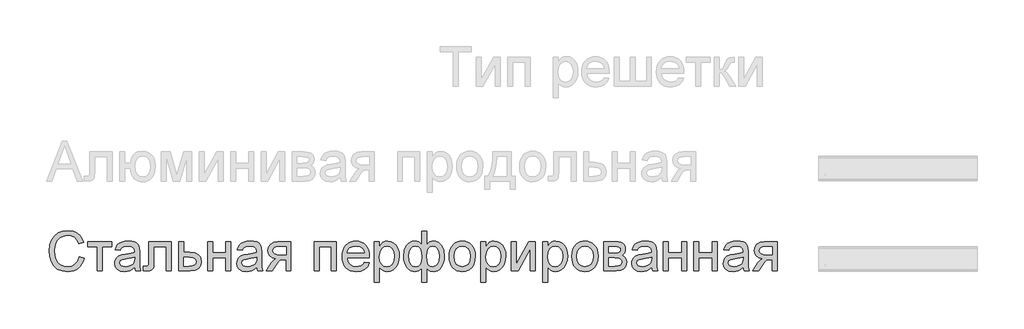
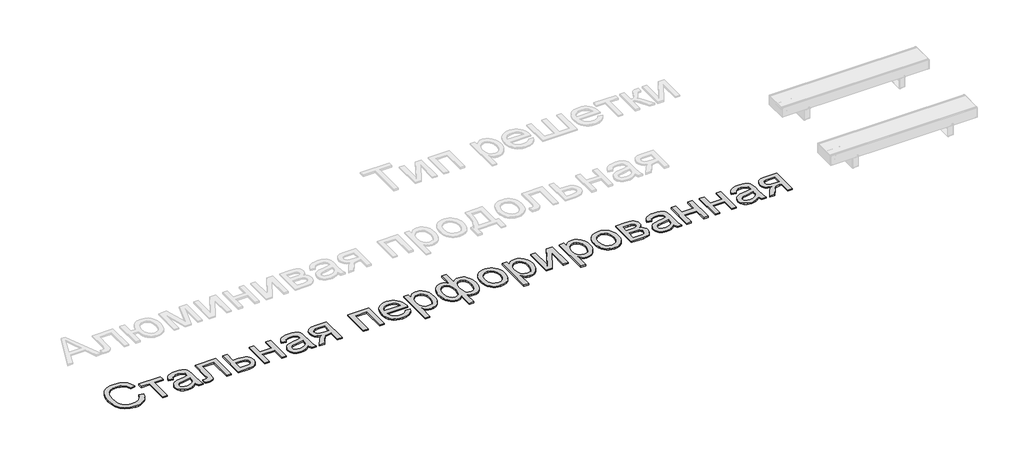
# One storey, part 2 of 7: 1 proxy.
"""IFC4 building model written with IfcOpenShell, lengths in millimetres."""

from ifc_helpers import new_model, si_unit, origin, origin_with_axes, place, context, project, spatial, polyline, outline, extrude, element, save

model = new_model("IFC4")

# Units and contexts
model_context = context("Model", 3, world=origin())
ifc_project = project(units=[si_unit("LENGTHUNIT", "METRE", prefix="MILLI")], contexts=[model_context])

# Site, building, storey
site = spatial("IfcSite", under=ifc_project)
building = spatial("IfcBuilding", under=site)
storey = spatial("IfcBuildingStorey", under=building, Name="Уровень 1", Elevation=0.0)

# Proxy
placement = place(None, origin())
element("IfcBuildingElementProxy", 1, Name="Текст модели 1", ObjectType="Текст модели 1", at=placement, inside=storey, context=model_context, shape_type="SweptSolid", body=[
    extrude(outline(polyline([(-1667.7169972, -7441.1418885), (-1630.0458809, -7450.8539731), (-1637.5000899, -7474.2811585), (-1647.4283052, -7494.7514922), (-1659.830527, -7512.2649745), (-1674.7067551, -7526.8216052), (-1691.7212974, -7538.2650345), (-1710.5384615, -7546.4389125), (-1731.1582473, -7551.3432394), (-1753.5806549, -7552.978015), (-1797.2758389, -7548.0300022), (-1831.9763081, -7533.1859637), (-1858.5741763, -7508.9609343), (-1877.9615575, -7475.8699488), (-1889.7981607, -7436.9664278), (-1893.7436951, -7395.3037919), (-1889.2831259, -7351.3602876), (-1875.9014183, -7313.4132598), (-1854.2975481, -7282.667522), (-1825.1704912, -7260.3278878), (-1790.6263718, -7246.7254511), (-1752.7713145, -7242.1913055), (-1711.4673635, -7248.0590233), (-1693.4986273, -7255.3936706), (-1677.3187173, -7265.6621768), (-1663.194348, -7278.5932289), (-1651.3922337, -7293.915514), (-1634.7547705, -7331.7337831), (-1672.4258868, -7340.7101038), (-1685.4856976, -7313.2385158), (-1703.3279744, -7294.3937606), (-1726.1734463, -7283.4952565), (-1754.2428425, -7279.8624218), (-1786.598064, -7283.8907296), (-1813.1775381, -7295.9756532), (-1833.3466685, -7314.8479995), (-1846.4708587, -7339.2385758), (-1853.6721487, -7366.8113314), (-1856.0725788, -7395.2302155), (-1853.2306903, -7430.0318522), (-1844.7050251, -7460.1245994), (-1830.1736863, -7484.3588259), (-1809.3147772, -7501.5849003), (-1784.3079986, -7511.8763991), (-1757.3330513, -7515.3068987), (-1725.8883377, -7510.6347974), (-1699.6859426, -7496.6184933), (-1679.9030883, -7473.4051395), (-1667.7169972, -7441.1418885)])), origin_with_axes(), (0.0, 0.0, 1.0), 10.0),
    extrude(outline(polyline([(-1601.7925437, -7326.9513172), (-1422.8547412, -7326.9513172), (-1422.8547412, -7364.6224335), (-1493.4880843, -7364.6224335), (-1493.4880843, -7548.2691255), (-1531.1592006, -7548.2691255), (-1531.1592006, -7364.6224335), (-1601.7925437, -7364.6224335), (-1601.7925437, -7326.9513172)])), origin_with_axes(), (0.0, 0.0, 1.0), 10.0),
    extrude(outline(polyline([(-1248.6258283, -7520.0157882), (-1266.6244549, -7535.4484379), (-1285.1565104, -7545.5467987), (-1304.6450591, -7551.1202109), (-1325.5131653, -7552.978015), (-1356.9946671, -7548.5082488), (-1380.217218, -7535.09895), (-1394.5370247, -7514.7366816), (-1399.3102936, -7489.4080062), (-1397.5076718, -7473.7914155), (-1392.0998064, -7459.6095646), (-1383.7580822, -7447.4694588), (-1373.1538837, -7437.9781033), (-1346.7767446, -7425.6172683), (-1314.1823999, -7419.9518856), (-1275.665155, -7413.9921972), (-1248.8465575, -7407.0024393), (-1248.6258283, -7398.6147298), (-1251.2193964, -7381.8025227), (-1259.0001006, -7370.802851), (-1276.400919, -7362.6358707), (-1300.6443424, -7359.9135439), (-1323.0851442, -7361.7253628), (-1338.7569171, -7367.1608192), (-1349.4438891, -7377.2131948), (-1356.9302877, -7392.8757707), (-1394.601404, -7388.1668812), (-1388.0623015, -7367.5654894), (-1378.3042316, -7351.3786817), (-1364.4166863, -7338.9994525), (-1345.4891577, -7329.8207967), (-1322.3401831, -7324.1370199), (-1295.7883001, -7322.2424276), (-1270.321669, -7323.9162907), (-1250.1341445, -7328.9378799), (-1234.913027, -7336.4886579), (-1224.3456166, -7345.7500871), (-1217.3374646, -7357.2004142), (-1212.794122, -7371.3178858), (-1210.954712, -7404.2801126), (-1210.954712, -7451.1482787), (-1209.0417256, -7516.5944857), (-1201.5369329, -7548.2691255), (-1239.2080492, -7548.2691255), (-1248.6258283, -7520.0157882)]), holes=[polyline([(-1248.6258283, -7444.6735556), (-1309.3999339, -7456.2250503), (-1341.8103377, -7462.3318914), (-1356.4888293, -7472.2647053), (-1361.6391772, -7486.7592559), (-1358.834077, -7497.9612626), (-1350.4187764, -7507.1399184), (-1336.5772163, -7513.2651536), (-1317.4933378, -7515.3068987), (-1297.2598281, -7513.0536215), (-1279.3807631, -7506.2937898), (-1264.8862125, -7496.3333848), (-1254.8062458, -7484.4783875), (-1250.3364796, -7472.2647053), (-1248.8465575, -7455.3421335), (-1248.6258283, -7444.6735556)])]), origin_with_axes(), (0.0, 0.0, 1.0), 10.0),
    extrude(outline(polyline([(-1140.3213689, -7326.9513172), (-970.8013456, -7326.9513172), (-970.8013456, -7548.0483963), (-1008.4724619, -7548.0483963), (-1008.4724619, -7364.6224335), (-1102.6502526, -7364.6224335), (-1102.6502526, -7470.2045661), (-1105.1886384, -7518.9121423), (-1109.9435132, -7529.9394051), (-1119.131366, -7539.4767458), (-1133.0740936, -7546.0710306), (-1152.0935928, -7548.2691255), (-1182.7013748, -7546.3561391), (-1182.7013748, -7510.5980092), (-1165.8523794, -7510.5980092), (-1148.819443, -7508.2803526), (-1142.0136261, -7500.9227127), (-1140.3213689, -7468.0708505), (-1140.3213689, -7326.9513172)])), origin_with_axes(), (0.0, 0.0, 1.0), 10.0),
    extrude(outline(polyline([(-914.2946711, -7326.9513172), (-876.6235548, -7326.9513172), (-876.6235548, -7407.0024393), (-833.2134794, -7407.0024393), (-795.5791513, -7411.7205259), (-780.4316101, -7417.6181341), (-767.7304842, -7425.8747857), (-757.6873058, -7436.205372), (-750.5136069, -7448.3247844), (-744.7746477, -7477.930088), (-749.6582812, -7504.8866412), (-764.3091817, -7527.6309455), (-775.5410788, -7536.6601493), (-789.7022364, -7543.1095805), (-826.8123327, -7548.2691255), (-914.2946711, -7548.2691255), (-914.2946711, -7326.9513172)]), holes=[polyline([(-876.6235548, -7510.5980092), (-841.4540361, -7510.5980092), (-814.1663891, -7508.6206434), (-796.0206097, -7502.6885463), (-785.8394754, -7492.5625944), (-782.445764, -7478.0036644), (-784.9565587, -7465.6980117), (-792.4889425, -7454.8270987), (-808.629765, -7447.2119414), (-836.9658757, -7444.6735556), (-876.6235548, -7444.6735556), (-876.6235548, -7510.5980092)])]), origin_with_axes(), (0.0, 0.0, 1.0), 10.0),
    extrude(outline(polyline([(-697.6857523, -7326.9513172), (-660.014636, -7326.9513172), (-660.014636, -7411.7113289), (-561.1279557, -7411.7113289), (-561.1279557, -7326.9513172), (-523.4568394, -7326.9513172), (-523.4568394, -7548.2691255), (-561.1279557, -7548.2691255), (-561.1279557, -7449.3824452), (-660.014636, -7449.3824452), (-660.014636, -7548.2691255), (-697.6857523, -7548.2691255), (-697.6857523, -7326.9513172)])), origin_with_axes(), (0.0, 0.0, 1.0), 10.0),
    extrude(outline(polyline([(-325.6834788, -7520.0157882), (-343.6821054, -7535.4484379), (-362.2141609, -7545.5467987), (-381.7027096, -7551.1202109), (-402.5708158, -7552.978015), (-434.0523176, -7548.5082488), (-457.2748685, -7535.09895), (-471.5946752, -7514.7366816), (-476.3679441, -7489.4080062), (-474.5653223, -7473.7914155), (-469.1574569, -7459.6095646), (-460.8157327, -7447.4694588), (-450.2115342, -7437.9781033), (-423.8343951, -7425.6172683), (-391.2400504, -7419.9518856), (-352.7228055, -7413.9921972), (-325.904208, -7407.0024393), (-325.6834788, -7398.6147298), (-328.2770469, -7381.8025227), (-336.0577511, -7370.802851), (-353.4585695, -7362.6358707), (-377.7019929, -7359.9135439), (-400.1427947, -7361.7253628), (-415.8145676, -7367.1608192), (-426.5015396, -7377.2131948), (-433.9879382, -7392.8757707), (-471.6590545, -7388.1668812), (-465.119952, -7367.5654894), (-455.3618821, -7351.3786817), (-441.4743368, -7338.9994525), (-422.5468082, -7329.8207967), (-399.3978336, -7324.1370199), (-372.8459506, -7322.2424276), (-347.3793195, -7323.9162907), (-327.191795, -7328.9378799), (-311.9706775, -7336.4886579), (-301.4032671, -7345.7500871), (-294.3951151, -7357.2004142), (-289.8517725, -7371.3178858), (-288.0123625, -7404.2801126), (-288.0123625, -7451.1482787), (-286.0993761, -7516.5944857), (-278.5945834, -7548.2691255), (-316.2656998, -7548.2691255), (-325.6834788, -7520.0157882)]), holes=[polyline([(-325.6834788, -7444.6735556), (-386.4575844, -7456.2250503), (-418.8679882, -7462.3318914), (-433.5464798, -7472.2647053), (-438.6968277, -7486.7592559), (-435.8917275, -7497.9612626), (-427.4764269, -7507.1399184), (-413.6348668, -7513.2651536), (-394.5509883, -7515.3068987), (-374.3174786, -7513.0536215), (-356.4384136, -7506.2937898), (-341.943863, -7496.3333848), (-331.8638963, -7484.4783875), (-327.3941301, -7472.2647053), (-325.904208, -7455.3421335), (-325.6834788, -7444.6735556)])]), origin_with_axes(), (0.0, 0.0, 1.0), 10.0),
    extrude(outline(polyline([(-66.6945542, -7326.9513172), (-66.6945542, -7548.2691255), (-104.3656705, -7548.2691255), (-104.3656705, -7463.5091138), (-124.8934859, -7463.5091138), (-152.8525175, -7468.2915797), (-164.017736, -7478.7210343), (-179.1192919, -7500.4444661), (-209.1384628, -7548.2691255), (-252.695691, -7548.2691255), (-214.8774219, -7487.7893255), (-198.1755793, -7466.0842878), (-182.7981119, -7456.4457795), (-208.5498516, -7448.5547107), (-226.6496457, -7433.5635194), (-237.3550118, -7413.6243152), (-240.9234671, -7390.8892079), (-236.0490307, -7365.1006801), (-221.4257214, -7344.6832293), (-197.568574, -7331.3842952), (-164.9926233, -7326.9513172), (-66.6945542, -7326.9513172)]), holes=[polyline([(-104.3656705, -7364.6224335), (-154.0297399, -7364.6224335), (-179.680312, -7366.8021343), (-194.239242, -7373.3412368), (-200.9990736, -7382.8050011), (-203.2523508, -7393.7586875), (-199.9322158, -7408.1152824), (-189.9718108, -7418.0756874), (-171.568514, -7423.89742), (-142.9197036, -7425.8379975), (-104.3656705, -7425.8379975), (-104.3656705, -7364.6224335)])]), origin_with_axes(), (0.0, 0.0, 1.0), 10.0),
    extrude(outline(polyline([(107.5343587, -7326.9513172), (277.0543821, -7326.9513172), (277.0543821, -7548.2691255), (239.3832658, -7548.2691255), (239.3832658, -7364.6224335), (145.205475, -7364.6224335), (145.205475, -7548.2691255), (107.5343587, -7548.2691255), (107.5343587, -7326.9513172)])), origin_with_axes(), (0.0, 0.0, 1.0), 10.0),
    extrude(outline(polyline([(488.5129529, -7482.3446719), (525.4483052, -7487.0535615), (512.140174, -7514.8838344), (490.9041859, -7535.6875612), (462.2185873, -7548.6554016), (426.5616249, -7552.978015), (403.1873226, -7551.1133131), (382.3606032, -7545.5192076), (364.0814666, -7536.1956982), (348.3499127, -7523.1427852), (335.6993706, -7506.7237519), (326.6632691, -7487.3018818), (321.2416082, -7464.877175), (319.4343879, -7439.4496313), (321.2600023, -7413.1598642), (326.7368455, -7389.987897), (335.8649175, -7369.9337298), (348.6442183, -7352.9973624), (364.3343854, -7339.5420785), (382.1950563, -7329.9311613), (402.2262309, -7324.1646111), (424.4279093, -7322.2424276), (445.9145171, -7324.1600125), (465.3455843, -7329.9127672), (482.7211107, -7339.5006917), (498.0410966, -7352.923786), (510.5467851, -7369.8233652), (519.4794198, -7389.8407442), (524.8390007, -7412.9759232), (526.6255276, -7439.2289021), (526.4047984, -7449.3824452), (357.1055042, -7449.3824452), (363.6262126, -7477.5806001), (378.7737537, -7498.3107505), (400.6351413, -7511.0578617), (427.2973889, -7515.3068987), (447.3469576, -7513.33873), (464.2327412, -7507.434224), (477.9547396, -7497.2254986), (488.5129529, -7482.3446719)]), holes=[polyline([(357.1055042, -7411.7113289), (488.9544113, -7411.7113289), (483.8592457, -7391.8089129), (473.8712495, -7377.5718797), (451.9086944, -7364.3281279), (424.2807565, -7359.9135439), (398.8877018, -7363.436014), (377.8908369, -7374.0034244), (363.2951188, -7390.4753407), (357.1055042, -7411.7113289)])]), origin_with_axes(), (0.0, 0.0, 1.0), 10.0),
    extrude(outline(polyline([(564.2966439, -7633.0291372), (564.2966439, -7326.9513172), (601.9677602, -7326.9513172), (601.9677602, -7363.8866695), (614.2550188, -7345.6673137), (628.0138055, -7332.6534881), (644.0534605, -7324.8451928), (663.1833242, -7322.2424276), (688.6591524, -7325.8844594), (710.9344072, -7336.8105546), (729.0709895, -7354.3585258), (742.1308004, -7377.8661853), (750.0218692, -7405.6228818), (752.6522254, -7435.9179641), (749.6815783, -7468.1352299), (740.769637, -7496.9495871), (726.20151, -7520.898705), (706.2623058, -7538.5202526), (683.0397549, -7549.3635744), (658.6215875, -7552.978015), (641.3035425, -7550.5591909), (625.8433017, -7543.3027185), (612.6087469, -7532.3490321), (601.9677602, -7518.8385659), (601.9677602, -7633.0291372), (564.2966439, -7633.0291372)]), holes=[polyline([(601.9677602, -7439.3760549), (606.0420533, -7473.1476221), (618.2649326, -7496.7656461), (636.3003474, -7510.6715856), (657.8122471, -7515.3068987), (679.6736346, -7510.5060387), (698.1689019, -7496.1034586), (710.7780573, -7471.6209118), (714.9811091, -7436.5801517), (710.8792249, -7402.9925256), (698.5735721, -7379.0434077), (680.5657485, -7364.6960099), (659.3573515, -7359.9135439), (638.066181, -7364.9995125), (619.3685786, -7380.2574183), (606.3179648, -7405.2090146), (601.9677602, -7439.3760549)])]), origin_with_axes(), (0.0, 0.0, 1.0), 10.0),
    extrude(outline(polyline([(922.1722488, -7246.900195), (959.8433651, -7246.900195), (959.8433651, -7348.2148965), (971.2752981, -7336.7829635), (983.792483, -7328.6803626), (997.3397375, -7323.8519114), (1011.8618792, -7322.2424276), (1029.3017851, -7324.2887712), (1044.8333031, -7330.427802), (1058.4564332, -7340.65952), (1070.1711755, -7354.9839252), (1079.5866553, -7372.4123347), (1086.311998, -7391.9560657), (1091.6922722, -7437.3894921), (1090.2437368, -7462.0444836), (1085.8981308, -7484.2116731), (1078.655454, -7503.8910605), (1068.5157065, -7521.082646), (1056.2238493, -7535.03687), (1042.5248435, -7545.0041728), (1027.4186891, -7550.9845544), (1010.905386, -7552.978015), (987.8759732, -7549.2991951), (975.0184974, -7542.4381958), (959.8433651, -7529.2128381), (959.8433651, -7633.0291372), (922.1722488, -7633.0291372), (922.1722488, -7529.2128381), (898.1127663, -7547.0183267), (869.6386999, -7552.978015), (853.3231334, -7551.0742257), (838.0744247, -7545.3628577), (823.8925738, -7535.8439111), (810.7775807, -7522.5173858), (799.768712, -7505.6453978), (791.9052343, -7485.490063), (787.1871477, -7462.0513814), (785.6144522, -7435.329353), (791.3074261, -7391.1651194), (798.4236434, -7371.993869), (808.3863477, -7354.763196), (820.7540805, -7340.5353598), (835.0853835, -7330.3726197), (851.3802566, -7324.2749757), (869.6386999, -7322.2424276), (884.9885762, -7323.8519114), (898.8117421, -7328.6803626), (911.1817742, -7336.7829635), (922.1722488, -7348.2148965), (922.1722488, -7246.900195)]), holes=[polyline([(959.6226359, -7438.2724089), (962.7588299, -7476.4125748), (972.167412, -7499.5983375), (986.3032776, -7511.3797584), (1003.6213225, -7515.3068987), (1022.9811125, -7510.4784475), (1039.2690879, -7495.993094), (1050.3331389, -7471.3358032), (1054.0211559, -7435.9915405), (1050.6182474, -7402.4774908), (1040.4095221, -7378.7491021), (1024.8665078, -7364.6224335), (1005.4607325, -7359.9135439), (985.4755431, -7364.8155715), (971.1373424, -7379.5216543), (962.5013125, -7404.0133981), (959.6226359, -7438.2724089)]), polyline([(823.2855685, -7434.5200126), (827.056359, -7471.473759), (838.3687303, -7496.3977642), (855.272908, -7510.5796151), (875.8191174, -7515.3068987), (896.2641593, -7510.6072062), (910.8046952, -7496.5081288), (919.4959073, -7473.0096663), (922.392978, -7440.1118189), (919.3487545, -7405.0250736), (910.216084, -7379.9631127), (894.9397841, -7364.9259361), (873.4646727, -7359.9135439), (853.3047393, -7364.8063745), (837.2650843, -7379.4848661), (826.7804475, -7403.0293138), (823.2855685, -7434.5200126)])]), origin_with_axes(), (0.0, 0.0, 1.0), 10.0),
    extrude(outline(polyline([(1129.3633885, -7437.6102213), (1131.400535, -7408.9476154), (1137.5119747, -7384.2489379), (1147.6977074, -7363.514189), (1161.9577333, -7346.7433685), (1176.3143281, -7336.0242069), (1192.1608451, -7328.3676629), (1209.4972841, -7323.7737364), (1228.3236452, -7322.2424276), (1249.1066787, -7324.1071295), (1267.8985508, -7329.7012351), (1284.6992617, -7339.0247444), (1299.5088113, -7352.0776574), (1311.5960341, -7368.4185158), (1320.2297646, -7387.6058611), (1325.410003, -7409.6396934), (1327.1367491, -7434.5200126), (1324.0833285, -7472.577405), (1314.9230669, -7501.5481121), (1299.9226785, -7523.2439528), (1279.3488779, -7539.4767458), (1254.9123164, -7549.6026977), (1228.3236452, -7552.978015), (1207.2371091, -7551.1202109), (1188.270493, -7545.5467987), (1171.4237969, -7536.2577783), (1156.6970207, -7523.2531498), (1144.7385566, -7506.7536423), (1136.1967966, -7486.9799851), (1131.0717405, -7463.9321781), (1129.3633885, -7437.6102213)]), holes=[polyline([(1167.0345048, -7437.5366449), (1171.3939064, -7471.6301088), (1184.4721114, -7495.9195176), (1204.1537981, -7510.4600534), (1228.3236452, -7515.3068987), (1252.3831277, -7510.4324623), (1272.0280262, -7495.809153), (1285.1062312, -7471.1978475), (1289.4656328, -7436.3594225), (1285.07864, -7403.25924), (1271.9176616, -7379.3009251), (1252.2451719, -7364.7603892), (1228.3236452, -7359.9135439), (1204.1537981, -7364.7419951), (1184.4721114, -7379.2273487), (1171.3939064, -7403.4615751), (1167.0345048, -7437.5366449)])]), origin_with_axes(), (0.0, 0.0, 1.0), 10.0),
    extrude(outline(polyline([(1369.5167549, -7633.0291372), (1369.5167549, -7326.9513172), (1407.1878713, -7326.9513172), (1407.1878713, -7363.8866695), (1419.4751299, -7345.6673137), (1433.2339165, -7332.6534881), (1449.2735715, -7324.8451928), (1468.4034353, -7322.2424276), (1493.8792634, -7325.8844594), (1516.1545182, -7336.8105546), (1534.2911006, -7354.3585258), (1547.3509114, -7377.8661853), (1555.2419802, -7405.6228818), (1557.8723365, -7435.9179641), (1554.9016894, -7468.1352299), (1545.989748, -7496.9495871), (1531.421621, -7520.898705), (1511.4824169, -7538.5202526), (1488.2598659, -7549.3635744), (1463.8416985, -7552.978015), (1446.5236536, -7550.5591909), (1431.0634127, -7543.3027185), (1417.828858, -7532.3490321), (1407.1878713, -7518.8385659), (1407.1878713, -7633.0291372), (1369.5167549, -7633.0291372)]), holes=[polyline([(1407.1878713, -7439.3760549), (1411.2621644, -7473.1476221), (1423.4850436, -7496.7656461), (1441.5204585, -7510.6715856), (1463.0323581, -7515.3068987), (1484.8937457, -7510.5060387), (1503.389013, -7496.1034586), (1515.9981684, -7471.6209118), (1520.2012202, -7436.5801517), (1516.0993359, -7402.9925256), (1503.7936832, -7379.0434077), (1485.7858595, -7364.6960099), (1464.5774625, -7359.9135439), (1443.286292, -7364.9995125), (1424.5886896, -7380.2574183), (1411.5380758, -7405.2090146), (1407.1878713, -7439.3760549)])]), origin_with_axes(), (0.0, 0.0, 1.0), 10.0),
    extrude(outline(polyline([(1600.2523423, -7326.9513172), (1637.9234586, -7326.9513172), (1637.9234586, -7495.7355766), (1730.4825686, -7326.9513172), (1779.1901448, -7326.9513172), (1779.1901448, -7548.2691255), (1741.5190285, -7548.2691255), (1741.5190285, -7380.5149357), (1649.5485297, -7548.2691255), (1600.2523423, -7548.2691255), (1600.2523423, -7326.9513172)])), origin_with_axes(), (0.0, 0.0, 1.0), 10.0),
    extrude(outline(polyline([(1835.6968192, -7633.0291372), (1835.6968192, -7326.9513172), (1873.3679355, -7326.9513172), (1873.3679355, -7363.8866695), (1885.6551942, -7345.6673137), (1899.4139808, -7332.6534881), (1915.4536358, -7324.8451928), (1934.5834995, -7322.2424276), (1960.0593277, -7325.8844594), (1982.3345825, -7336.8105546), (2000.4711649, -7354.3585258), (2013.5309757, -7377.8661853), (2021.4220445, -7405.6228818), (2024.0524008, -7435.9179641), (2021.0817537, -7468.1352299), (2012.1698123, -7496.9495871), (1997.6016853, -7520.898705), (1977.6624812, -7538.5202526), (1954.4399302, -7549.3635744), (1930.0217628, -7552.978015), (1912.7037179, -7550.5591909), (1897.243477, -7543.3027185), (1884.0089223, -7532.3490321), (1873.3679355, -7518.8385659), (1873.3679355, -7633.0291372), (1835.6968192, -7633.0291372)]), holes=[polyline([(1873.3679355, -7439.3760549), (1877.4422286, -7473.1476221), (1889.6651079, -7496.7656461), (1907.7005227, -7510.6715856), (1929.2124224, -7515.3068987), (1951.07381, -7510.5060387), (1969.5690773, -7496.1034586), (1982.1782327, -7471.6209118), (1986.3812845, -7436.5801517), (1982.2794002, -7402.9925256), (1969.9737475, -7379.0434077), (1951.9659238, -7364.6960099), (1930.7575268, -7359.9135439), (1909.4663563, -7364.9995125), (1890.7687539, -7380.2574183), (1877.7181401, -7405.2090146), (1873.3679355, -7439.3760549)])]), origin_with_axes(), (0.0, 0.0, 1.0), 10.0),
    extrude(outline(polyline([(2057.0146275, -7437.6102213), (2059.0517741, -7408.9476154), (2065.1632137, -7384.2489379), (2075.3489465, -7363.514189), (2089.6089723, -7346.7433685), (2103.9655672, -7336.0242069), (2119.8120841, -7328.3676629), (2137.1485231, -7323.7737364), (2155.9748842, -7322.2424276), (2176.7579177, -7324.1071295), (2195.5497899, -7329.7012351), (2212.3505007, -7339.0247444), (2227.1600503, -7352.0776574), (2239.2472731, -7368.4185158), (2247.8810037, -7387.6058611), (2253.061242, -7409.6396934), (2254.7879881, -7434.5200126), (2251.7345676, -7472.577405), (2242.5743059, -7501.5481121), (2227.5739175, -7523.2439528), (2207.000117, -7539.4767458), (2182.5635554, -7549.6026977), (2155.9748842, -7552.978015), (2134.8883481, -7551.1202109), (2115.921732, -7545.5467987), (2099.0750359, -7536.2577783), (2084.3482598, -7523.2531498), (2072.3897957, -7506.7536423), (2063.8480356, -7486.9799851), (2058.7229795, -7463.9321781), (2057.0146275, -7437.6102213)]), holes=[polyline([(2094.6857438, -7437.5366449), (2099.0451455, -7471.6301088), (2112.1233504, -7495.9195176), (2131.8050372, -7510.4600534), (2155.9748842, -7515.3068987), (2180.0343667, -7510.4324623), (2199.6792653, -7495.809153), (2212.7574702, -7471.1978475), (2217.1168718, -7436.3594225), (2212.729879, -7403.25924), (2199.5689007, -7379.3009251), (2179.896411, -7364.7603892), (2155.9748842, -7359.9135439), (2131.8050372, -7364.7419951), (2112.1233504, -7379.2273487), (2099.0451455, -7403.4615751), (2094.6857438, -7437.5366449)])]), origin_with_axes(), (0.0, 0.0, 1.0), 10.0),
    extrude(outline(polyline([(2297.167994, -7326.9513172), (2380.1621721, -7326.9513172), (2406.8428138, -7328.211313), (2425.6691749, -7331.9913005), (2439.519932, -7339.1282112), (2451.2737618, -7350.4589767), (2459.3027863, -7365.2202417), (2461.9791278, -7382.6486512), (2460.360447, -7396.6925464), (2455.5044047, -7408.8050611), (2447.3926067, -7419.0413776), (2436.006659, -7427.4566783), (2449.9493866, -7435.2833677), (2461.3169402, -7447.874129), (2468.8769152, -7464.2356807), (2471.3969069, -7483.3747415), (2465.0141543, -7512.0879312), (2449.839022, -7532.3030469), (2425.8163277, -7544.2776058), (2392.8908891, -7548.2691255), (2297.167994, -7548.2691255), (2297.167994, -7326.9513172)]), holes=[polyline([(2334.8391103, -7411.7113289), (2372.0687682, -7411.7113289), (2402.7869148, -7409.7983425), (2417.7229238, -7402.146397), (2422.6617396, -7395.8188267), (2424.3080115, -7388.314034), (2421.4201379, -7377.075239), (2412.7565169, -7369.8463578), (2397.103138, -7365.9284146), (2373.2459906, -7364.6224335), (2334.8391103, -7364.6224335), (2334.8391103, -7411.7113289)]), polyline([(2334.8391103, -7510.5980092), (2381.0450889, -7510.5980092), (2406.2266115, -7508.8965549), (2422.0271431, -7503.7921923), (2430.5068231, -7494.5123689), (2433.7257906, -7480.2845328), (2432.1163069, -7470.8575566), (2427.2878557, -7462.1479504), (2419.8750335, -7455.3329364), (2410.5124367, -7451.5897371), (2377.3662689, -7449.3824452), (2334.8391103, -7449.3824452), (2334.8391103, -7510.5980092)])]), origin_with_axes(), (0.0, 0.0, 1.0), 10.0),
    extrude(outline(polyline([(2659.7524884, -7520.0157882), (2641.7538618, -7535.4484379), (2623.2218063, -7545.5467987), (2603.7332576, -7551.1202109), (2582.8651514, -7552.978015), (2551.3836497, -7548.5082488), (2528.1610988, -7535.09895), (2513.8412921, -7514.7366816), (2509.0680232, -7489.4080062), (2510.870645, -7473.7914155), (2516.2785103, -7459.6095646), (2524.6202346, -7447.4694588), (2535.2244331, -7437.9781033), (2561.6015721, -7425.6172683), (2594.1959169, -7419.9518856), (2632.7131618, -7413.9921972), (2659.5317592, -7407.0024393), (2659.7524884, -7398.6147298), (2657.1589204, -7381.8025227), (2649.3782162, -7370.802851), (2631.9773978, -7362.6358707), (2607.7339743, -7359.9135439), (2585.2931726, -7361.7253628), (2569.6213996, -7367.1608192), (2558.9344277, -7377.2131948), (2551.4480291, -7392.8757707), (2513.7769127, -7388.1668812), (2520.3160152, -7367.5654894), (2530.0740851, -7351.3786817), (2543.9616304, -7338.9994525), (2562.8891591, -7329.8207967), (2586.0381336, -7324.1370199), (2612.5900167, -7322.2424276), (2638.0566478, -7323.9162907), (2658.2441723, -7328.9378799), (2673.4652898, -7336.4886579), (2684.0327001, -7345.7500871), (2691.0408521, -7357.2004142), (2695.5841948, -7371.3178858), (2697.4236047, -7404.2801126), (2697.4236047, -7451.1482787), (2699.3365911, -7516.5944857), (2706.8413838, -7548.2691255), (2669.1702675, -7548.2691255), (2659.7524884, -7520.0157882)]), holes=[polyline([(2659.7524884, -7444.6735556), (2598.9783828, -7456.2250503), (2566.5679791, -7462.3318914), (2551.8894874, -7472.2647053), (2546.7391395, -7486.7592559), (2549.5442397, -7497.9612626), (2557.9595404, -7507.1399184), (2571.8011004, -7513.2651536), (2590.8849789, -7515.3068987), (2611.1184887, -7513.0536215), (2628.9975536, -7506.2937898), (2643.4921042, -7496.3333848), (2653.5720709, -7484.4783875), (2658.0418372, -7472.2647053), (2659.5317592, -7455.3421335), (2659.7524884, -7444.6735556)])]), origin_with_axes(), (0.0, 0.0, 1.0), 10.0),
    extrude(outline(polyline([(2749.2213897, -7326.9513172), (2786.892506, -7326.9513172), (2786.892506, -7411.7113289), (2885.7791863, -7411.7113289), (2885.7791863, -7326.9513172), (2923.4503026, -7326.9513172), (2923.4503026, -7548.2691255), (2885.7791863, -7548.2691255), (2885.7791863, -7449.3824452), (2786.892506, -7449.3824452), (2786.892506, -7548.2691255), (2749.2213897, -7548.2691255), (2749.2213897, -7326.9513172)])), origin_with_axes(), (0.0, 0.0, 1.0), 10.0),
    extrude(outline(polyline([(2979.956977, -7326.9513172), (3017.6280933, -7326.9513172), (3017.6280933, -7411.7113289), (3116.5147736, -7411.7113289), (3116.5147736, -7326.9513172), (3154.1858899, -7326.9513172), (3154.1858899, -7548.2691255), (3116.5147736, -7548.2691255), (3116.5147736, -7449.3824452), (3017.6280933, -7449.3824452), (3017.6280933, -7548.2691255), (2979.956977, -7548.2691255), (2979.956977, -7326.9513172)])), origin_with_axes(), (0.0, 0.0, 1.0), 10.0),
    extrude(outline(polyline([(3351.9592506, -7520.0157882), (3333.9606239, -7535.4484379), (3315.4285684, -7545.5467987), (3295.9400197, -7551.1202109), (3275.0719136, -7552.978015), (3243.5904118, -7548.5082488), (3220.3678609, -7535.09895), (3206.0480542, -7514.7366816), (3201.2747853, -7489.4080062), (3203.0774071, -7473.7914155), (3208.4852724, -7459.6095646), (3216.8269967, -7447.4694588), (3227.4311952, -7437.9781033), (3253.8083342, -7425.6172683), (3286.402679, -7419.9518856), (3324.9199239, -7413.9921972), (3351.7385214, -7407.0024393), (3351.9592506, -7398.6147298), (3349.3656825, -7381.8025227), (3341.5849783, -7370.802851), (3324.1841599, -7362.6358707), (3299.9407364, -7359.9135439), (3277.4999347, -7361.7253628), (3261.8281617, -7367.1608192), (3251.1411898, -7377.2131948), (3243.6547912, -7392.8757707), (3205.9836749, -7388.1668812), (3212.5227773, -7367.5654894), (3222.2808473, -7351.3786817), (3236.1683926, -7338.9994525), (3255.0959212, -7329.8207967), (3278.2448958, -7324.1370199), (3304.7967788, -7322.2424276), (3330.2634099, -7323.9162907), (3350.4509344, -7328.9378799), (3365.6720519, -7336.4886579), (3376.2394622, -7345.7500871), (3383.2476142, -7357.2004142), (3387.7909569, -7371.3178858), (3389.6303669, -7404.2801126), (3389.6303669, -7451.1482787), (3391.5433532, -7516.5944857), (3399.0481459, -7548.2691255), (3361.3770296, -7548.2691255), (3351.9592506, -7520.0157882)]), holes=[polyline([(3351.9592506, -7444.6735556), (3291.185145, -7456.2250503), (3258.7747412, -7462.3318914), (3244.0962496, -7472.2647053), (3238.9459016, -7486.7592559), (3241.7510019, -7497.9612626), (3250.1663025, -7507.1399184), (3264.0078626, -7513.2651536), (3283.0917411, -7515.3068987), (3303.3252508, -7513.0536215), (3321.2043158, -7506.2937898), (3335.6988664, -7496.3333848), (3345.778833, -7484.4783875), (3350.2485993, -7472.2647053), (3351.7385214, -7455.3421335), (3351.9592506, -7444.6735556)])]), origin_with_axes(), (0.0, 0.0, 1.0), 10.0),
    extrude(outline(polyline([(3610.9481752, -7326.9513172), (3610.9481752, -7548.2691255), (3573.2770589, -7548.2691255), (3573.2770589, -7463.5091138), (3552.7492435, -7463.5091138), (3524.7902119, -7468.2915797), (3513.6249933, -7478.7210343), (3498.5234374, -7500.4444661), (3468.5042666, -7548.2691255), (3424.9470384, -7548.2691255), (3462.7653075, -7487.7893255), (3479.4671501, -7466.0842878), (3494.8446175, -7456.4457795), (3469.0928778, -7448.5547107), (3450.9930837, -7433.5635194), (3440.2877176, -7413.6243152), (3436.7192622, -7390.8892079), (3441.5936987, -7365.1006801), (3456.217008, -7344.6832293), (3480.0741554, -7331.3842952), (3512.650106, -7326.9513172), (3610.9481752, -7326.9513172)]), holes=[polyline([(3573.2770589, -7364.6224335), (3523.6129895, -7364.6224335), (3497.9624174, -7366.8021343), (3483.4034874, -7373.3412368), (3476.6436558, -7382.8050011), (3474.3903786, -7393.7586875), (3477.7105136, -7408.1152824), (3487.6709186, -7418.0756874), (3506.0742154, -7423.89742), (3534.7230258, -7425.8379975), (3573.2770589, -7425.8379975), (3573.2770589, -7364.6224335)])]), origin_with_axes(), (0.0, 0.0, 1.0), 10.0),
])

save(model, "model.ifc")
